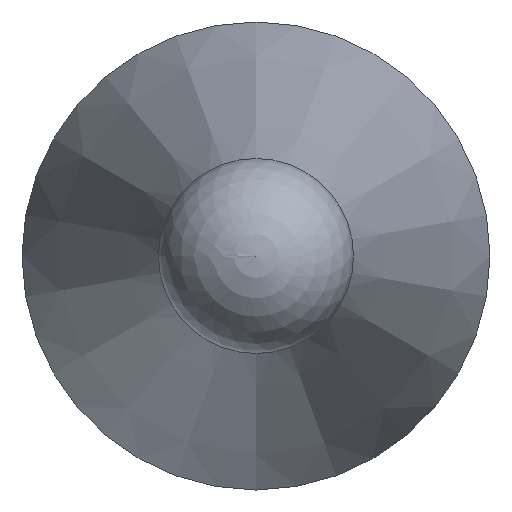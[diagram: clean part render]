
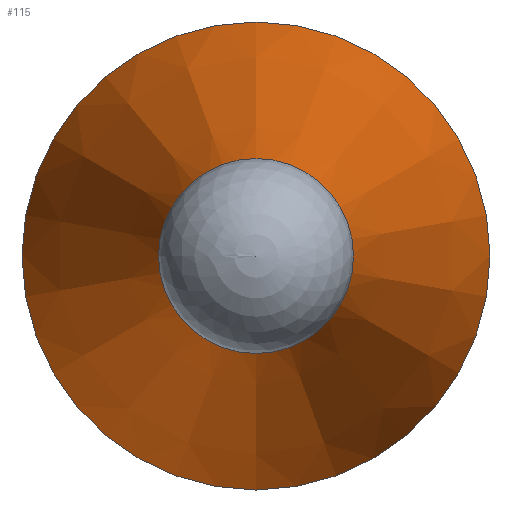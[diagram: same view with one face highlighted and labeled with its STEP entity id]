
A CAD part, left-side view. The second image highlights one B-rep face of the part: STEP entity #115.
In plain terms, the highlighted conical face has half-angle 15 degrees and reference radius 3 mm.
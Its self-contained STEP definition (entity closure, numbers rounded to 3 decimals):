
#96=CONICAL_SURFACE('',#181,3.,15.);
#103=FACE_BOUND('',#128,.T.);
#104=FACE_BOUND('',#129,.T.);
#115=ADVANCED_FACE('',(#103,#104),#96,.T.);
#128=EDGE_LOOP('',(#142));
#129=EDGE_LOOP('',(#143));
#142=ORIENTED_EDGE('',*,*,#162,.T.);
#143=ORIENTED_EDGE('',*,*,#163,.F.);
#155=VERTEX_POINT('',#229);
#156=VERTEX_POINT('',#232);
#162=EDGE_CURVE('',#155,#155,#169,.T.);
#163=EDGE_CURVE('',#156,#156,#170,.T.);
#169=CIRCLE('',#178,1.2);
#170=CIRCLE('',#180,3.);
#178=AXIS2_PLACEMENT_3D('',#228,#198,#199);
#180=AXIS2_PLACEMENT_3D('',#231,#202,#203);
#181=AXIS2_PLACEMENT_3D('',#233,#204,#205);
#198=DIRECTION('',(1.,0.,0.));
#199=DIRECTION('',(0.,0.,-1.));
#202=DIRECTION('',(1.,0.,0.));
#203=DIRECTION('',(0.,0.,-1.));
#204=DIRECTION('',(1.,0.,0.));
#205=DIRECTION('',(0.,0.,-1.));
#228=CARTESIAN_POINT('',(7901.412,6103.288,0.));
#229=CARTESIAN_POINT('',(7901.412,6103.288,-1.2));
#231=CARTESIAN_POINT('',(7908.129,6103.288,0.));
#232=CARTESIAN_POINT('',(7908.129,6103.288,-3.));
#233=CARTESIAN_POINT('',(7908.129,6103.288,0.));
